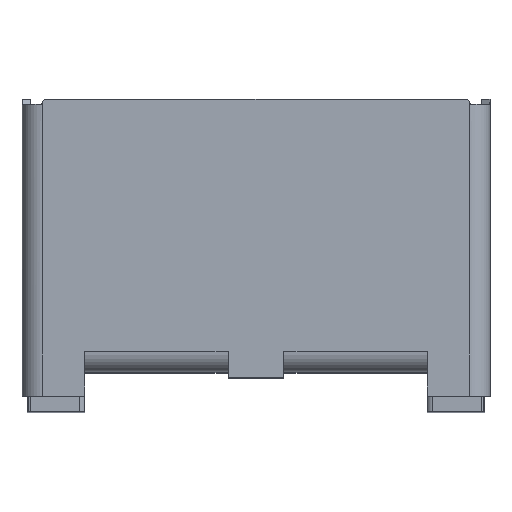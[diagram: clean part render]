
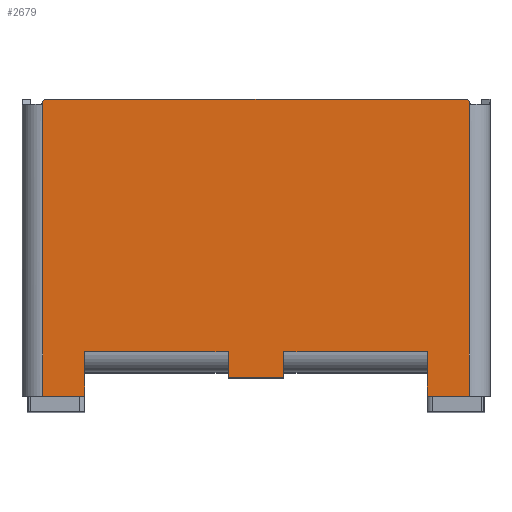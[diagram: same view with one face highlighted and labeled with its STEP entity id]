
A CAD part, top view. The second image highlights one B-rep face of the part: STEP entity #2679.
In plain terms, the highlighted planar face has unit normal (0, 0, 1).
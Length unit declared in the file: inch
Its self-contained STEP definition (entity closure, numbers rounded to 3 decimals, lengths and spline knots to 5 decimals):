
#16 = CARTESIAN_POINT ( 'NONE',  ( 42.75, 1.5, 48.25 ) ) ;
#121 = FACE_OUTER_BOUND ( 'NONE', #1044, .T. ) ;
#142 = CARTESIAN_POINT ( 'NONE',  ( 42.75, 29.875, 48.25 ) ) ;
#145 = VERTEX_POINT ( 'NONE', #1661 ) ;
#158 = DIRECTION ( 'NONE',  ( 0., 1., 0. ) ) ;
#176 = LINE ( 'NONE', #2617, #1451 ) ;
#228 = LINE ( 'NONE', #1142, #864 ) ;
#365 = CARTESIAN_POINT ( 'NONE',  ( 38.75, 5.75, 48.25 ) ) ;
#395 = VECTOR ( 'NONE', #1523, 39.37008 ) ;
#434 = DIRECTION ( 'NONE',  ( 0., 1., 0. ) ) ;
#452 = CARTESIAN_POINT ( 'NONE',  ( 0., 0., 48.25 ) ) ;
#473 = VERTEX_POINT ( 'NONE', #2110 ) ;
#497 = LINE ( 'NONE', #2077, #3381 ) ;
#523 = ORIENTED_EDGE ( 'NONE', *, *, #2456, .F. ) ;
#538 = EDGE_CURVE ( 'NONE', #473, #145, #3340, .T. ) ;
#579 = VECTOR ( 'NONE', #434, 39.37008 ) ;
#634 = VERTEX_POINT ( 'NONE', #1520 ) ;
#659 = VECTOR ( 'NONE', #3224, 39.37008 ) ;
#682 = DIRECTION ( 'NONE',  ( 1., 0., 0. ) ) ;
#695 = CARTESIAN_POINT ( 'NONE',  ( 22.375, 1.5, 48.25 ) ) ;
#708 = CARTESIAN_POINT ( 'NONE',  ( -13.33794, 10.88984, 48.25 ) ) ;
#824 = VECTOR ( 'NONE', #682, 39.37008 ) ;
#864 = VECTOR ( 'NONE', #2843, 39.37008 ) ;
#866 = CARTESIAN_POINT ( 'NONE',  ( 2., 29.67583, 48.25 ) ) ;
#883 = DIRECTION ( 'NONE',  ( -1., 0., 0. ) ) ;
#925 = CARTESIAN_POINT ( 'NONE',  ( 22.375, 1.5, 48.25 ) ) ;
#947 = DIRECTION ( 'NONE',  ( 0., -1., 0. ) ) ;
#957 = CARTESIAN_POINT ( 'NONE',  ( 38.75, 0., 48.25 ) ) ;
#964 = CARTESIAN_POINT ( 'NONE',  ( 2.16262, 29.875, 48.25 ) ) ;
#969 = DIRECTION ( 'NONE',  ( 0.632, -0.775, 0. ) ) ;
#1011 = VERTEX_POINT ( 'NONE', #866 ) ;
#1030 = LINE ( 'NONE', #925, #3304 ) ;
#1032 = CARTESIAN_POINT ( 'NONE',  ( 42.75, 29.67583, 48.25 ) ) ;
#1044 = EDGE_LOOP ( 'NONE', ( #3039, #3134, #2182, #1340, #3078, #1734, #2883, #1295, #2338, #1684, #523, #1772, #1828, #1081 ) ) ;
#1081 = ORIENTED_EDGE ( 'NONE', *, *, #538, .F. ) ;
#1142 = CARTESIAN_POINT ( 'NONE',  ( 6., 0., 48.25 ) ) ;
#1195 = VECTOR ( 'NONE', #1782, 39.37008 ) ;
#1205 = DIRECTION ( 'NONE',  ( 0., -1., 0. ) ) ;
#1262 = DIRECTION ( 'NONE',  ( -1., 0., 0. ) ) ;
#1295 = ORIENTED_EDGE ( 'NONE', *, *, #2437, .F. ) ;
#1299 = VERTEX_POINT ( 'NONE', #365 ) ;
#1340 = ORIENTED_EDGE ( 'NONE', *, *, #2395, .T. ) ;
#1362 = LINE ( 'NONE', #957, #2024 ) ;
#1451 = VECTOR ( 'NONE', #1205, 39.37008 ) ;
#1518 = CARTESIAN_POINT ( 'NONE',  ( 25.05, 5.75, 48.25 ) ) ;
#1520 = CARTESIAN_POINT ( 'NONE',  ( 25.05, 3.25, 48.25 ) ) ;
#1523 = DIRECTION ( 'NONE',  ( -0.632, -0.775, 0. ) ) ;
#1565 = VERTEX_POINT ( 'NONE', #2502 ) ;
#1628 = LINE ( 'NONE', #2321, #2389 ) ;
#1661 = CARTESIAN_POINT ( 'NONE',  ( 6., 5.75, 48.25 ) ) ;
#1684 = ORIENTED_EDGE ( 'NONE', *, *, #2444, .T. ) ;
#1734 = ORIENTED_EDGE ( 'NONE', *, *, #2417, .T. ) ;
#1772 = ORIENTED_EDGE ( 'NONE', *, *, #2460, .F. ) ;
#1782 = DIRECTION ( 'NONE',  ( 1., 0., 0. ) ) ;
#1792 = VECTOR ( 'NONE', #2686, 39.37008 ) ;
#1806 = CARTESIAN_POINT ( 'NONE',  ( 38.75, 1.5, 48.25 ) ) ;
#1828 = ORIENTED_EDGE ( 'NONE', *, *, #2158, .T. ) ;
#1847 = VECTOR ( 'NONE', #969, 39.37008 ) ;
#1905 = VERTEX_POINT ( 'NONE', #1518 ) ;
#1931 = LINE ( 'NONE', #695, #1195 ) ;
#2024 = VECTOR ( 'NONE', #2639, 39.37008 ) ;
#2077 = CARTESIAN_POINT ( 'NONE',  ( 2., 29.875, 48.25 ) ) ;
#2110 = CARTESIAN_POINT ( 'NONE',  ( 19.7, 5.75, 48.25 ) ) ;
#2118 = VERTEX_POINT ( 'NONE', #1032 ) ;
#2120 = VECTOR ( 'NONE', #947, 39.37008 ) ;
#2158 = EDGE_CURVE ( 'NONE', #2821, #145, #228, .T. ) ;
#2178 = CARTESIAN_POINT ( 'NONE',  ( 6., 1.5, 48.25 ) ) ;
#2182 = ORIENTED_EDGE ( 'NONE', *, *, #2388, .F. ) ;
#2213 = LINE ( 'NONE', #3210, #2120 ) ;
#2321 = CARTESIAN_POINT ( 'NONE',  ( 0., 29.875, 48.25 ) ) ;
#2338 = ORIENTED_EDGE ( 'NONE', *, *, #2347, .T. ) ;
#2343 = CARTESIAN_POINT ( 'NONE',  ( 19.7, 3.25, 48.25 ) ) ;
#2347 = EDGE_CURVE ( 'NONE', #3142, #2538, #1628, .T. ) ;
#2370 = EDGE_CURVE ( 'NONE', #473, #3535, #176, .T. ) ;
#2386 = EDGE_CURVE ( 'NONE', #3535, #634, #3621, .T. ) ;
#2388 = EDGE_CURVE ( 'NONE', #1905, #634, #2213, .T. ) ;
#2389 = VECTOR ( 'NONE', #883, 39.37008 ) ;
#2393 = CARTESIAN_POINT ( 'NONE',  ( 6., 5.75, 48.25 ) ) ;
#2395 = EDGE_CURVE ( 'NONE', #1905, #1299, #2889, .T. ) ;
#2409 = EDGE_CURVE ( 'NONE', #2570, #1299, #1362, .T. ) ;
#2417 = EDGE_CURVE ( 'NONE', #2570, #3104, #1931, .T. ) ;
#2422 = EDGE_CURVE ( 'NONE', #3104, #2118, #3552, .T. ) ;
#2437 = EDGE_CURVE ( 'NONE', #3142, #2118, #2711, .T. ) ;
#2444 = EDGE_CURVE ( 'NONE', #2538, #1011, #2609, .T. ) ;
#2456 = EDGE_CURVE ( 'NONE', #1565, #1011, #497, .T. ) ;
#2460 = EDGE_CURVE ( 'NONE', #2821, #1565, #1030, .T. ) ;
#2502 = CARTESIAN_POINT ( 'NONE',  ( 2., 1.5, 48.25 ) ) ;
#2538 = VERTEX_POINT ( 'NONE', #964 ) ;
#2570 = VERTEX_POINT ( 'NONE', #1806 ) ;
#2609 = LINE ( 'NONE', #708, #395 ) ;
#2617 = CARTESIAN_POINT ( 'NONE',  ( 19.7, 3.75, 48.25 ) ) ;
#2639 = DIRECTION ( 'NONE',  ( 0., 1., 0. ) ) ;
#2679 = ADVANCED_FACE ( 'NONE', ( #121 ), #2680, .T. ) ;
#2680 = PLANE ( 'NONE',  #3407 ) ;
#2686 = DIRECTION ( 'NONE',  ( -1., 0., 0. ) ) ;
#2711 = LINE ( 'NONE', #3506, #1847 ) ;
#2821 = VERTEX_POINT ( 'NONE', #2178 ) ;
#2825 = CARTESIAN_POINT ( 'NONE',  ( 42.58738, 29.875, 48.25 ) ) ;
#2843 = DIRECTION ( 'NONE',  ( 0., 1., 0. ) ) ;
#2883 = ORIENTED_EDGE ( 'NONE', *, *, #2422, .T. ) ;
#2889 = LINE ( 'NONE', #2926, #659 ) ;
#2898 = DIRECTION ( 'NONE',  ( -1., 0., 0. ) ) ;
#2926 = CARTESIAN_POINT ( 'NONE',  ( 38.75, 5.75, 48.25 ) ) ;
#2984 = DIRECTION ( 'NONE',  ( 0., 0., 1. ) ) ;
#3039 = ORIENTED_EDGE ( 'NONE', *, *, #2370, .T. ) ;
#3078 = ORIENTED_EDGE ( 'NONE', *, *, #2409, .F. ) ;
#3104 = VERTEX_POINT ( 'NONE', #16 ) ;
#3134 = ORIENTED_EDGE ( 'NONE', *, *, #2386, .T. ) ;
#3142 = VERTEX_POINT ( 'NONE', #2825 ) ;
#3210 = CARTESIAN_POINT ( 'NONE',  ( 25.05, 3.75, 48.25 ) ) ;
#3224 = DIRECTION ( 'NONE',  ( 1., 0., 0. ) ) ;
#3304 = VECTOR ( 'NONE', #2898, 39.37008 ) ;
#3311 = CARTESIAN_POINT ( 'NONE',  ( 19.7, 3.25, 48.25 ) ) ;
#3340 = LINE ( 'NONE', #2393, #1792 ) ;
#3381 = VECTOR ( 'NONE', #158, 39.37008 ) ;
#3407 = AXIS2_PLACEMENT_3D ( 'NONE', #452, #2984, #1262 ) ;
#3506 = CARTESIAN_POINT ( 'NONE',  ( 58.08794, 10.88984, 48.25 ) ) ;
#3535 = VERTEX_POINT ( 'NONE', #3311 ) ;
#3552 = LINE ( 'NONE', #142, #579 ) ;
#3621 = LINE ( 'NONE', #2343, #824 ) ;
